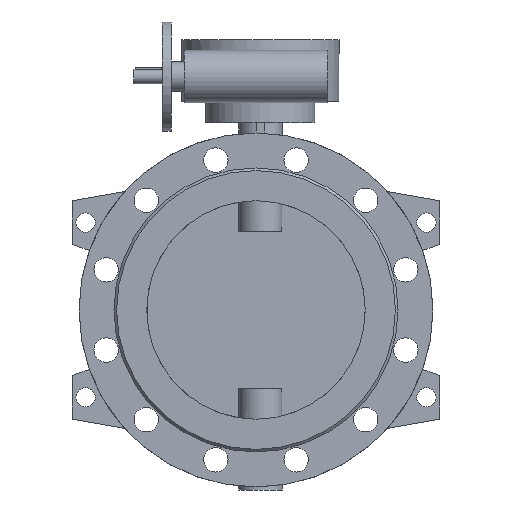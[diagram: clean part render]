
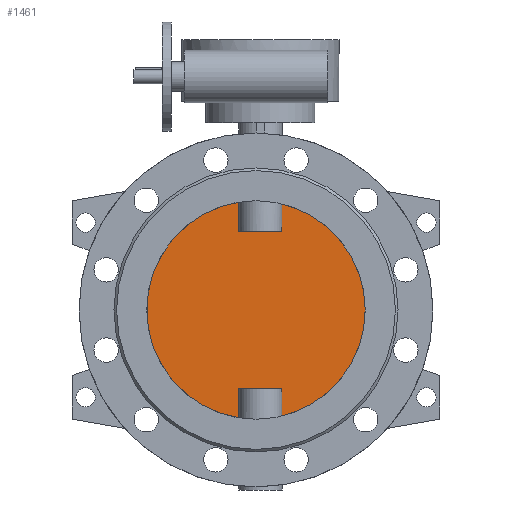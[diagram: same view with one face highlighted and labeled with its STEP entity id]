
A CAD part, front view. The second image highlights one B-rep face of the part: STEP entity #1461.
In plain terms, the highlighted planar face has unit normal (0, -1, 0).
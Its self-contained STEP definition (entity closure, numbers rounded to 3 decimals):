
#1461=ADVANCED_FACE('',(#2981),#2983,.F.);
#2981=FACE_BOUND('',#2982,.T.);
#2982=EDGE_LOOP('',(#3770,#3771,#3772,#3773,#3774,#3775,#3776,#3777));
#2983=PLANE('',#2984);
#2984=AXIS2_PLACEMENT_3D('',#2985,#2986,#2987);
#2985=CARTESIAN_POINT('',(0.,-5.,0.));
#2986=DIRECTION('',(0.,1.,0.));
#2987=DIRECTION('',(1.,0.,0.));
#3770=ORIENTED_EDGE('',*,*,#4167,.T.);
#3771=ORIENTED_EDGE('',*,*,#4173,.T.);
#3772=ORIENTED_EDGE('',*,*,#4174,.T.);
#3773=ORIENTED_EDGE('',*,*,#4175,.T.);
#3774=ORIENTED_EDGE('',*,*,#4169,.T.);
#3775=ORIENTED_EDGE('',*,*,#4176,.T.);
#3776=ORIENTED_EDGE('',*,*,#4177,.T.);
#3777=ORIENTED_EDGE('',*,*,#4178,.T.);
#4167=EDGE_CURVE('',#4806,#4807,#4808,.F.);
#4169=EDGE_CURVE('',#4811,#4809,#4812,.F.);
#4173=EDGE_CURVE('',#4807,#4818,#4819,.T.);
#4174=EDGE_CURVE('',#4818,#4820,#4821,.F.);
#4175=EDGE_CURVE('',#4820,#4811,#4822,.F.);
#4176=EDGE_CURVE('',#4809,#4823,#4824,.F.);
#4177=EDGE_CURVE('',#4823,#4825,#4826,.F.);
#4178=EDGE_CURVE('',#4825,#4806,#4827,.T.);
#4806=VERTEX_POINT('',#7223);
#4807=VERTEX_POINT('',#7224);
#4808=CIRCLE('',#7225,125.);
#4809=VERTEX_POINT('',#7229);
#4811=VERTEX_POINT('',#7319);
#4812=CIRCLE('',#7320,125.);
#4818=VERTEX_POINT('',#7445);
#4819=LINE('',#7446,#7447);
#4820=VERTEX_POINT('',#7449);
#4821=LINE('',#7450,#7451);
#4822=LINE('',#7453,#7454);
#4823=VERTEX_POINT('',#7456);
#4824=LINE('',#7457,#7458);
#4825=VERTEX_POINT('',#7460);
#4826=LINE('',#7461,#7462);
#4827=LINE('',#7464,#7465);
#7223=CARTESIAN_POINT('',(29.495,-5.,-121.47));
#7224=CARTESIAN_POINT('',(29.495,-5.,121.47));
#7225=AXIS2_PLACEMENT_3D('',#7226,#7227,#7228);
#7226=CARTESIAN_POINT('',(0.,-5.,0.));
#7227=DIRECTION('',(0.,1.,0.));
#7228=DIRECTION('',(0.236,0.,0.972));
#7229=CARTESIAN_POINT('',(-19.495,-5.,-123.47));
#7319=CARTESIAN_POINT('',(-19.495,-5.,123.47));
#7320=AXIS2_PLACEMENT_3D('',#7321,#7322,#7323);
#7321=CARTESIAN_POINT('',(0.,-5.,0.));
#7322=DIRECTION('',(0.,1.,0.));
#7323=DIRECTION('',(-0.156,0.,-0.988));
#7445=CARTESIAN_POINT('',(29.495,-5.,90.));
#7446=CARTESIAN_POINT('',(29.495,-5.,121.47));
#7447=VECTOR('',#7448,1.);
#7448=DIRECTION('',(0.,0.,-1.));
#7449=CARTESIAN_POINT('',(-19.495,-5.,90.));
#7450=CARTESIAN_POINT('',(-19.495,-5.,90.));
#7451=VECTOR('',#7452,1.);
#7452=DIRECTION('',(1.,0.,0.));
#7453=CARTESIAN_POINT('',(-19.495,-5.,123.47));
#7454=VECTOR('',#7455,1.);
#7455=DIRECTION('',(0.,0.,-1.));
#7456=CARTESIAN_POINT('',(-19.495,-5.,-90.));
#7457=CARTESIAN_POINT('',(-19.495,-5.,-90.));
#7458=VECTOR('',#7459,1.);
#7459=DIRECTION('',(0.,0.,-1.));
#7460=CARTESIAN_POINT('',(29.495,-5.,-90.));
#7461=CARTESIAN_POINT('',(29.495,-5.,-90.));
#7462=VECTOR('',#7463,1.);
#7463=DIRECTION('',(-1.,0.,0.));
#7464=CARTESIAN_POINT('',(29.495,-5.,-90.));
#7465=VECTOR('',#7466,1.);
#7466=DIRECTION('',(0.,0.,-1.));
